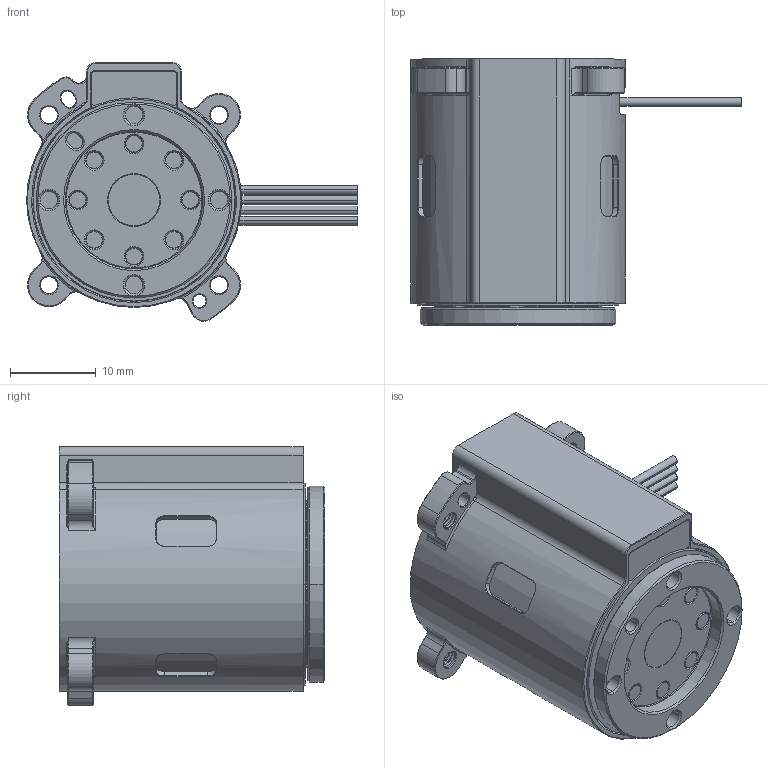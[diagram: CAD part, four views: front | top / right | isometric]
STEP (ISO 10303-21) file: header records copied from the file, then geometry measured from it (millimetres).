
FILE_DESCRIPTION((''),'2;1');
FILE_NAME('040200000008_ASM','2026-09-01T11:51:47',('wenbo'),(''),'CREO PARAMETRIC BY PTC INC, 2024325','CREO PARAMETRIC BY PTC INC, 2024325','');
FILE_SCHEMA(('CONFIG_CONTROL_DESIGN'));
Length unit declared in the file: millimetre
Products named in the file (13): 043000000003_218; 040400000003_ASM_96_ASM; 045400000003_16_1; 045400000001_28; 045600000001_66_1; 044200000004_169_1; 043500000003_17_1; 044300000004_33_1; 040600000002_ASM_51_ASM; 040200000008_ASM_320_ASM; YUANZHU; YUANZHU2; 040200000008_ASM
Assembly tree (20 placements, depth 4):
  040200000008_ASM
    040200000008_ASM_320_ASM
      040400000003_ASM_96_ASM
        043000000003_218
      045400000003_16_1  x2
      045400000001_28
      045600000001_66_1
      040600000002_ASM_51_ASM
        044200000004_169_1
        043500000003_17_1
        044300000004_33_1  x8
    YUANZHU
    YUANZHU2
Bounding box: 38.5 x 30.95 x 30.12 mm (x, y, z)
Volume: 11881.9 mm3; surface area: 11687.9 mm2
Topology: 17 solids, 21 shells, 728 faces, 2001 edges, 1313 vertices
Faces by surface type: cylinder 229, plane 189, cone 177, bspline 90, torus 43
Entity records: 33320 total; most frequent: CARTESIAN_POINT 16004, ORIENTED_EDGE 3676, DIRECTION 3508, EDGE_CURVE 1856, AXIS2_PLACEMENT_3D 1387, VERTEX_POINT 1225, CIRCLE 763, EDGE_LOOP 735
